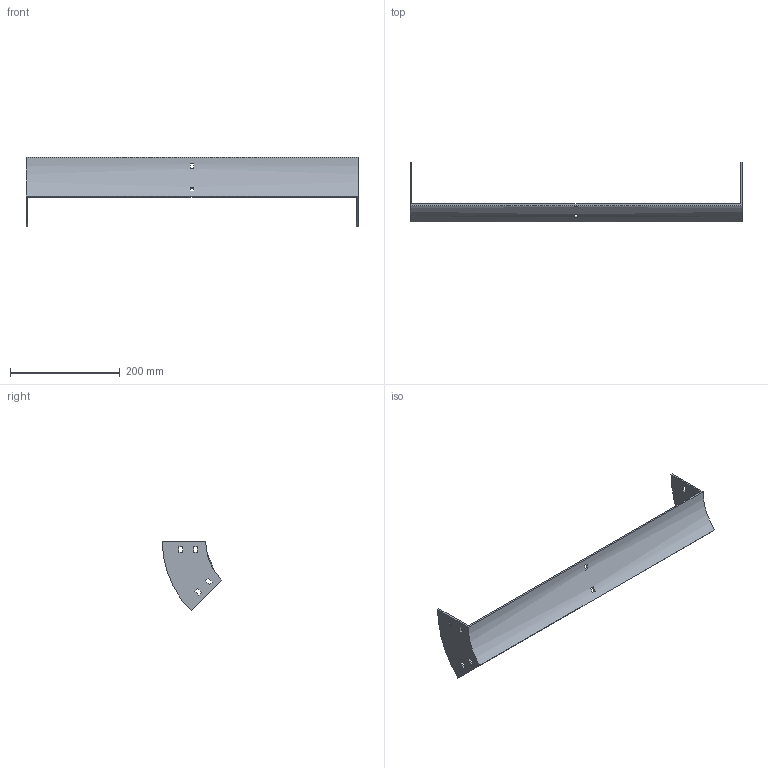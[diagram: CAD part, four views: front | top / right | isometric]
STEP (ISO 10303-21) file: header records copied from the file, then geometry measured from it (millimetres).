
FILE_DESCRIPTION (( 'STEP AP214' ), '1' );
FILE_NAME ('34B1C600.step', '2025-02-21T09:29:52', ( '' ), ( '' ), 'SwSTEP 2.0', 'SolidWorks 2023', '' );
FILE_SCHEMA (( 'AUTOMOTIVE_DESIGN' ));
Length unit declared in the file: millimetre
Products named in the file (1): 34B1C600
Bounding box: 604 x 108.29 x 126.57 mm (x, y, z)
Volume: 225194.1 mm3; surface area: 136113.9 mm2
Topology: 1 solids, 1 shells, 50 faces, 144 edges, 96 vertices
Faces by surface type: plane 46, cylinder 4
Entity records: 1687 total; most frequent: CARTESIAN_POINT 291, ORIENTED_EDGE 288, DIRECTION 262, EDGE_CURVE 144, VECTOR 128, LINE 128, VERTEX_POINT 96, EDGE_LOOP 70
